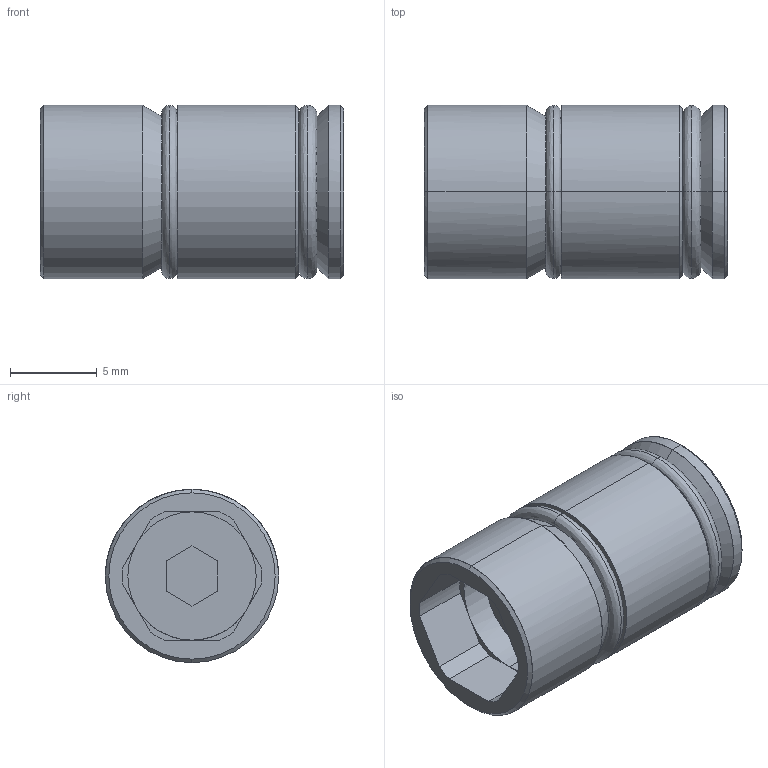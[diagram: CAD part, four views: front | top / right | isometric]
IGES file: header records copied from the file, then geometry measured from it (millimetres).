
Start section: START RECORD GO HERE.
Global section: file name: TRI-10L.igs; native system: DASSAULT SYSTEMES CATIA V5 R20 - www.3ds.com; preprocessor: CATIA Version 5 Release 20 ; author: Utente; organization: NB04-ASUS; date: 20210222.201231; units: millimetre
Bounding box: 17.5 x 10 x 10 mm (x, y, z)
Surface area: 952.6 mm2 (no closed solid volume)
Topology: 0 solids, 0 shells, 56 faces, 304 edges, 304 vertices
Faces by surface type: revolution 32, plane 24
